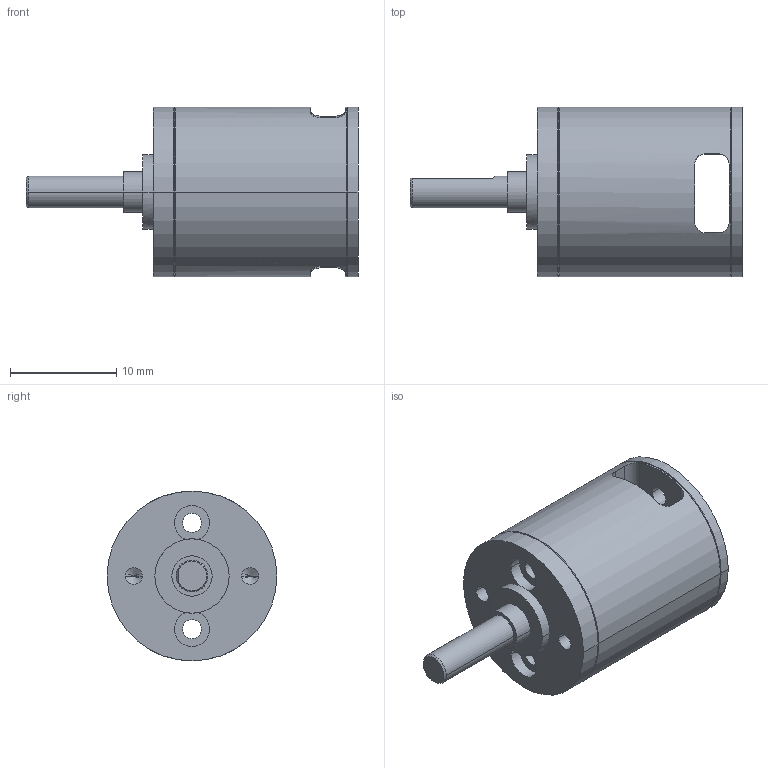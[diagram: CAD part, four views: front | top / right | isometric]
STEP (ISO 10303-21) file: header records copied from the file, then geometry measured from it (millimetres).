
FILE_DESCRIPTION((''),'2;1');
FILE_NAME('GS16VZ','2016-10-06T',('mmagpetk'),(''),'CREO PARAMETRIC BY PTC INC, 2016050','CREO PARAMETRIC BY PTC INC, 2016050','');
FILE_SCHEMA(('CONFIG_CONTROL_DESIGN'));
Length unit declared in the file: millimetre
Products named in the file (1): GS16VZ
Bounding box: 31.3 x 16 x 16 mm (x, y, z)
Volume: 3218.3 mm3; surface area: 2175.2 mm2
Topology: 1 solids, 1 shells, 65 faces, 157 edges, 96 vertices
Faces by surface type: cylinder 36, plane 16, cone 13
Entity records: 2534 total; most frequent: CARTESIAN_POINT 390, DIRECTION 352, ORIENTED_EDGE 306, PRESENTATION_STYLE_ASSIGNMENT 154, STYLED_ITEM 154, CURVE_STYLE 153, EDGE_CURVE 153, AXIS2_PLACEMENT_3D 146
